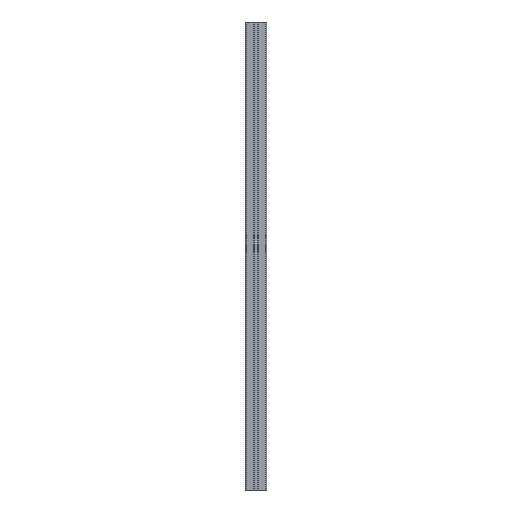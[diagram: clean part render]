
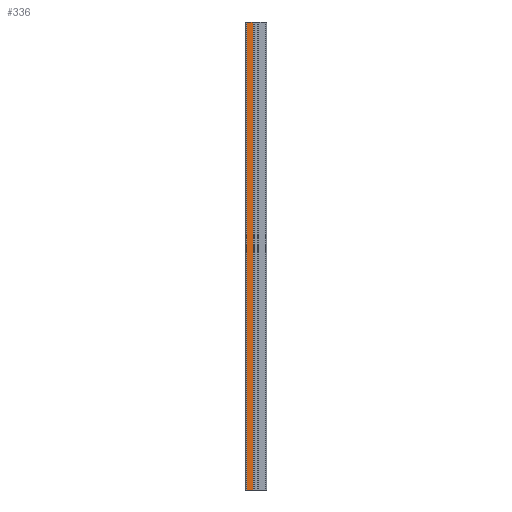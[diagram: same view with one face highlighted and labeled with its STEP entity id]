
A CAD part, left-side view. The second image highlights one B-rep face of the part: STEP entity #336.
In plain terms, the highlighted planar face has unit normal (-1, 0, 0).
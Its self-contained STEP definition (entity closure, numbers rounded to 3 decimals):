
#336=ADVANCED_FACE('',(#620),#512,.T.);
#512=PLANE('',#3709);
#620=FACE_OUTER_BOUND('',#796,.T.);
#796=EDGE_LOOP('',(#996,#997,#998,#999));
#996=ORIENTED_EDGE('',*,*,#2401,.F.);
#997=ORIENTED_EDGE('',*,*,#2402,.F.);
#998=ORIENTED_EDGE('',*,*,#2403,.T.);
#999=ORIENTED_EDGE('',*,*,#2399,.T.);
#2044=VERTEX_POINT('',#5060);
#2045=VERTEX_POINT('',#5062);
#2046=VERTEX_POINT('',#5066);
#2047=VERTEX_POINT('',#5068);
#2399=EDGE_CURVE('',#2045,#2044,#2924,.T.);
#2401=EDGE_CURVE('',#2046,#2044,#2925,.T.);
#2402=EDGE_CURVE('',#2047,#2046,#2926,.T.);
#2403=EDGE_CURVE('',#2047,#2045,#2927,.T.);
#2924=LINE('',#5061,#3316);
#2925=LINE('',#5065,#3317);
#2926=LINE('',#5067,#3318);
#2927=LINE('',#5069,#3319);
#3316=VECTOR('',#4037,1.);
#3317=VECTOR('',#4042,1.);
#3318=VECTOR('',#4043,1.);
#3319=VECTOR('',#4044,1.);
#3709=AXIS2_PLACEMENT_3D('',#5070,#4045,#4046);
#4037=DIRECTION('',(0.,0.,-1.));
#4042=DIRECTION('',(0.,1.,0.));
#4043=DIRECTION('',(0.,0.,-1.));
#4044=DIRECTION('',(0.,1.,0.));
#4045=DIRECTION('',(-1.,0.,0.));
#4046=DIRECTION('',(0.,-1.,0.));
#5060=CARTESIAN_POINT('',(-22.5,20.,-600.));
#5061=CARTESIAN_POINT('',(-22.5,20.,0.));
#5062=CARTESIAN_POINT('',(-22.5,20.,400.));
#5065=CARTESIAN_POINT('',(-22.5,6.2,-600.));
#5066=CARTESIAN_POINT('',(-22.5,6.2,-600.));
#5067=CARTESIAN_POINT('',(-22.5,6.2,0.));
#5068=CARTESIAN_POINT('',(-22.5,6.2,400.));
#5069=CARTESIAN_POINT('',(-22.5,6.2,400.));
#5070=CARTESIAN_POINT('',(-22.5,6.2,0.));
